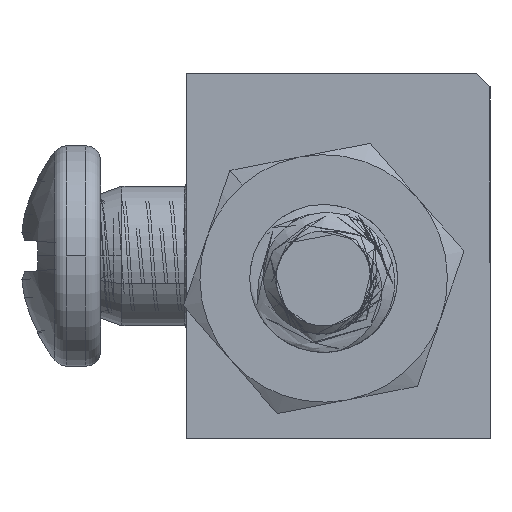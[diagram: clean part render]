
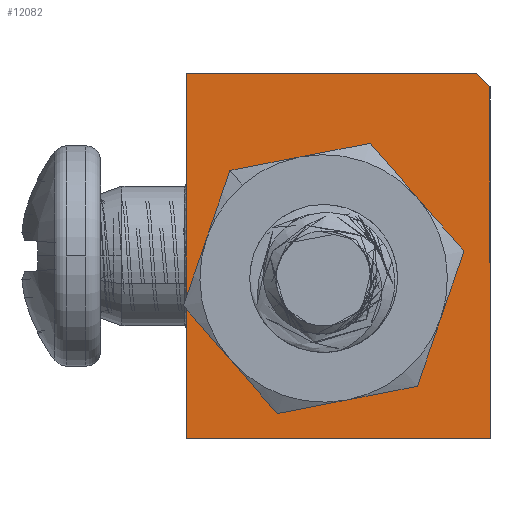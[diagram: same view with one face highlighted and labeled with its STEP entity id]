
A CAD part, front view. The second image highlights one B-rep face of the part: STEP entity #12082.
In plain terms, the highlighted planar face has unit normal (0, -1, 0) as drawn and (1, 0, 0) by its records, which use the part's own axes.
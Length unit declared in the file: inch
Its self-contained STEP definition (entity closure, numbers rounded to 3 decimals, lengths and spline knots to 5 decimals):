
#36 = LINE ( 'NONE', #9676, #15721 ) ;
#382 = CARTESIAN_POINT ( 'NONE',  ( 0.32917, -0.083, -0.071 ) ) ;
#740 = AXIS2_PLACEMENT_3D ( 'NONE', #13626, #1206, #6442 ) ;
#911 = CIRCLE ( 'NONE', #3783, 0.06 ) ;
#1206 = DIRECTION ( 'NONE',  ( 1., 0., 0. ) ) ;
#1390 = VERTEX_POINT ( 'NONE', #15195 ) ;
#1816 = CARTESIAN_POINT ( 'NONE',  ( 0.32917, -0.2381, 0.115 ) ) ;
#1866 = CARTESIAN_POINT ( 'NONE',  ( 0.32917, -0.083, 0.049 ) ) ;
#2312 = EDGE_CURVE ( 'NONE', #14851, #9666, #16267, .T. ) ;
#2814 = EDGE_LOOP ( 'NONE', ( #16110, #11970, #13168, #4775, #17107 ) ) ;
#3575 = FACE_OUTER_BOUND ( 'NONE', #2814, .T. ) ;
#3783 = AXIS2_PLACEMENT_3D ( 'NONE', #15264, #7169, #12628 ) ;
#3809 = EDGE_CURVE ( 'NONE', #14758, #10722, #5424, .T. ) ;
#4775 = ORIENTED_EDGE ( 'NONE', *, *, #5135, .T. ) ;
#4884 = LINE ( 'NONE', #1816, #10782 ) ;
#5084 = VECTOR ( 'NONE', #13705, 39.37008 ) ;
#5135 = EDGE_CURVE ( 'NONE', #15326, #16511, #10814, .T. ) ;
#5424 = LINE ( 'NONE', #16215, #15693 ) ;
#5714 = DIRECTION ( 'NONE',  ( 0., 0., -1. ) ) ;
#5723 = EDGE_CURVE ( 'NONE', #10722, #16511, #36, .T. ) ;
#6442 = DIRECTION ( 'NONE',  ( 0., 0., -1. ) ) ;
#6579 = CARTESIAN_POINT ( 'NONE',  ( 0.32917, 0.0381, -0.115 ) ) ;
#6636 = CARTESIAN_POINT ( 'NONE',  ( 0.32917, 0.0381, 0.115 ) ) ;
#7169 = DIRECTION ( 'NONE',  ( 1., 0., 0. ) ) ;
#7498 = DIRECTION ( 'NONE',  ( 0., 0., -1. ) ) ;
#7738 = EDGE_CURVE ( 'NONE', #1390, #15326, #4884, .T. ) ;
#9156 = PLANE ( 'NONE',  #12678 ) ;
#9666 = VERTEX_POINT ( 'NONE', #1866 ) ;
#9676 = CARTESIAN_POINT ( 'NONE',  ( 0.32917, 0.0381, -0.115 ) ) ;
#10285 = EDGE_CURVE ( 'NONE', #9666, #14851, #911, .T. ) ;
#10580 = EDGE_LOOP ( 'NONE', ( #13456, #12845 ) ) ;
#10674 = DIRECTION ( 'NONE',  ( 1., 0., 0. ) ) ;
#10722 = VERTEX_POINT ( 'NONE', #6636 ) ;
#10765 = VECTOR ( 'NONE', #15155, 39.37008 ) ;
#10782 = VECTOR ( 'NONE', #7498, 39.37008 ) ;
#10814 = LINE ( 'NONE', #12414, #5084 ) ;
#11254 = CARTESIAN_POINT ( 'NONE',  ( 0.32917, -0.2331, 0.11 ) ) ;
#11970 = ORIENTED_EDGE ( 'NONE', *, *, #17780, .T. ) ;
#12082 = ADVANCED_FACE ( 'NONE', ( #17332, #3575 ), #9156, .T. ) ;
#12346 = LINE ( 'NONE', #11254, #10765 ) ;
#12414 = CARTESIAN_POINT ( 'NONE',  ( 0.32917, -0.2381, -0.115 ) ) ;
#12628 = DIRECTION ( 'NONE',  ( 0., 0., -1. ) ) ;
#12678 = AXIS2_PLACEMENT_3D ( 'NONE', #16085, #10674, #17423 ) ;
#12845 = ORIENTED_EDGE ( 'NONE', *, *, #10285, .F. ) ;
#13168 = ORIENTED_EDGE ( 'NONE', *, *, #7738, .T. ) ;
#13456 = ORIENTED_EDGE ( 'NONE', *, *, #2312, .F. ) ;
#13550 = CARTESIAN_POINT ( 'NONE',  ( 0.32917, -0.2281, 0.115 ) ) ;
#13626 = CARTESIAN_POINT ( 'NONE',  ( 0.32917, -0.083, -0.011 ) ) ;
#13705 = DIRECTION ( 'NONE',  ( 0., 1., 0. ) ) ;
#14758 = VERTEX_POINT ( 'NONE', #13550 ) ;
#14851 = VERTEX_POINT ( 'NONE', #382 ) ;
#15155 = DIRECTION ( 'NONE',  ( 0., -0.707, -0.707 ) ) ;
#15195 = CARTESIAN_POINT ( 'NONE',  ( 0.32917, -0.2381, 0.105 ) ) ;
#15264 = CARTESIAN_POINT ( 'NONE',  ( 0.32917, -0.083, -0.011 ) ) ;
#15326 = VERTEX_POINT ( 'NONE', #17657 ) ;
#15693 = VECTOR ( 'NONE', #16125, 39.37008 ) ;
#15721 = VECTOR ( 'NONE', #5714, 39.37008 ) ;
#16085 = CARTESIAN_POINT ( 'NONE',  ( 0.32917, -0.2381, 0.115 ) ) ;
#16110 = ORIENTED_EDGE ( 'NONE', *, *, #3809, .F. ) ;
#16125 = DIRECTION ( 'NONE',  ( 0., 1., 0. ) ) ;
#16215 = CARTESIAN_POINT ( 'NONE',  ( 0.32917, -0.2381, 0.115 ) ) ;
#16267 = CIRCLE ( 'NONE', #740, 0.06 ) ;
#16511 = VERTEX_POINT ( 'NONE', #6579 ) ;
#17107 = ORIENTED_EDGE ( 'NONE', *, *, #5723, .F. ) ;
#17332 = FACE_BOUND ( 'NONE', #10580, .T. ) ;
#17423 = DIRECTION ( 'NONE',  ( 0., 0., -1. ) ) ;
#17657 = CARTESIAN_POINT ( 'NONE',  ( 0.32917, -0.2381, -0.115 ) ) ;
#17780 = EDGE_CURVE ( 'NONE', #14758, #1390, #12346, .T. ) ;
